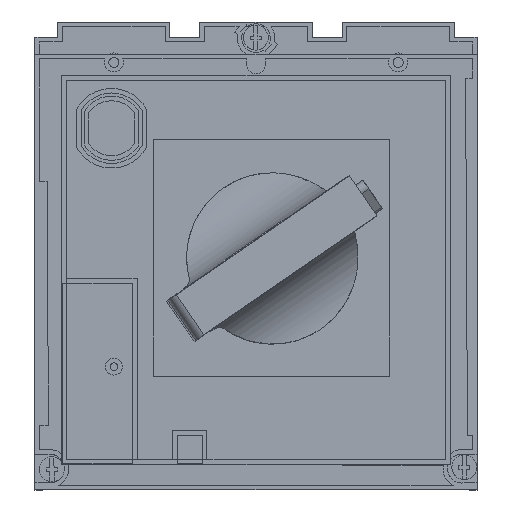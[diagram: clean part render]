
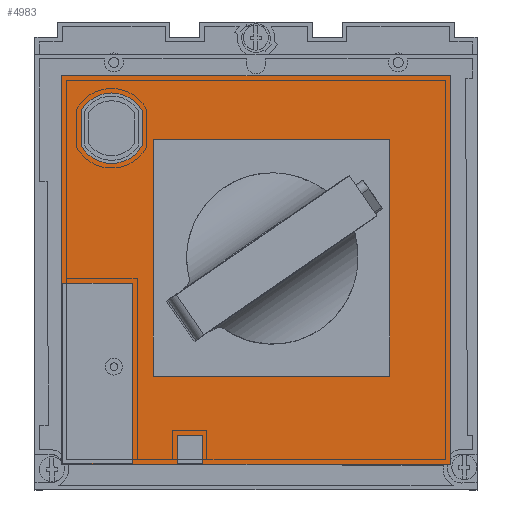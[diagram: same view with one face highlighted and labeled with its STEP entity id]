
A CAD part, top view. The second image highlights one B-rep face of the part: STEP entity #4983.
In plain terms, the highlighted planar face has unit normal (0, 0, 1).
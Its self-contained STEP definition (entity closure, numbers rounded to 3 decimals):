
#315=DIRECTION('',(0.,1.,0.));
#316=VECTOR('',#315,123.);
#317=CARTESIAN_POINT('',(8.48,8.13,49.9));
#318=LINE('',#317,#316);
#319=DIRECTION('',(1.,0.,0.));
#320=VECTOR('',#319,123.);
#321=CARTESIAN_POINT('',(8.48,131.13,49.9));
#322=LINE('',#321,#320);
#323=DIRECTION('',(0.,-1.,0.));
#324=VECTOR('',#323,123.);
#325=CARTESIAN_POINT('',(131.48,131.13,49.9));
#326=LINE('',#325,#324);
#327=DIRECTION('',(-1.,0.,0.));
#328=VECTOR('',#327,123.);
#329=CARTESIAN_POINT('',(131.48,8.13,49.9));
#330=LINE('',#329,#328);
#331=CARTESIAN_POINT('',(24.28,114.53,49.9));
#332=DIRECTION('',(0.,0.,1.));
#333=DIRECTION('',(-0.866,-0.501,0.));
#334=AXIS2_PLACEMENT_3D('',#331,#332,#333);
#336=DIRECTION('',(0.,1.,0.));
#337=VECTOR('',#336,11.17);
#338=CARTESIAN_POINT('',(33.931,108.945,49.9));
#339=LINE('',#338,#337);
#340=CARTESIAN_POINT('',(24.28,114.53,49.9));
#341=DIRECTION('',(0.,0.,1.));
#342=DIRECTION('',(0.866,0.501,0.));
#343=AXIS2_PLACEMENT_3D('',#340,#341,#342);
#345=DIRECTION('',(0.,-1.,0.));
#346=VECTOR('',#345,11.17);
#347=CARTESIAN_POINT('',(14.63,120.115,49.9));
#348=LINE('',#347,#346);
#367=DIRECTION('',(-1.,0.,0.));
#368=VECTOR('',#367,22.1);
#369=CARTESIAN_POINT('',(30.88,65.53,49.9));
#370=LINE('',#369,#368);
#371=DIRECTION('',(0.,-1.,0.));
#372=VECTOR('',#371,57.1);
#373=CARTESIAN_POINT('',(8.78,65.53,49.9));
#374=LINE('',#373,#372);
#375=DIRECTION('',(1.,0.,0.));
#376=VECTOR('',#375,22.1);
#377=CARTESIAN_POINT('',(8.78,8.43,49.9));
#378=LINE('',#377,#376);
#379=DIRECTION('',(0.,1.,0.));
#380=VECTOR('',#379,57.1);
#381=CARTESIAN_POINT('',(30.88,8.43,49.9));
#382=LINE('',#381,#380);
#383=DIRECTION('',(0.,-1.,0.));
#384=VECTOR('',#383,8.98);
#385=CARTESIAN_POINT('',(45.05,17.41,49.9));
#386=LINE('',#385,#384);
#387=DIRECTION('',(1.,0.,0.));
#388=VECTOR('',#387,7.96);
#389=CARTESIAN_POINT('',(45.05,8.43,49.9));
#390=LINE('',#389,#388);
#391=DIRECTION('',(0.,1.,0.));
#392=VECTOR('',#391,8.98);
#393=CARTESIAN_POINT('',(53.01,8.43,49.9));
#394=LINE('',#393,#392);
#395=DIRECTION('',(-1.,0.,0.));
#396=VECTOR('',#395,7.96);
#397=CARTESIAN_POINT('',(53.01,17.41,49.9));
#398=LINE('',#397,#396);
#399=CARTESIAN_POINT('',(108.18,106.38,49.9));
#400=DIRECTION('',(0.,0.,1.));
#401=DIRECTION('',(0.,1.,0.));
#402=AXIS2_PLACEMENT_3D('',#399,#400,#401);
#404=CARTESIAN_POINT('',(108.18,106.38,49.9));
#405=DIRECTION('',(0.,0.,1.));
#406=DIRECTION('',(0.,-1.,0.));
#407=AXIS2_PLACEMENT_3D('',#404,#405,#406);
#409=DIRECTION('',(0.892,-0.453,0.));
#410=VECTOR('',#409,11.31);
#411=CARTESIAN_POINT('',(67.37,70.241,49.9));
#412=LINE('',#411,#410);
#413=DIRECTION('',(0.453,0.892,0.));
#414=VECTOR('',#413,11.31);
#415=CARTESIAN_POINT('',(77.454,65.12,49.9));
#416=LINE('',#415,#414);
#417=DIRECTION('',(-0.892,0.453,0.));
#418=VECTOR('',#417,11.31);
#419=CARTESIAN_POINT('',(82.575,75.204,49.9));
#420=LINE('',#419,#418);
#421=DIRECTION('',(-0.453,-0.892,0.));
#422=VECTOR('',#421,11.31);
#423=CARTESIAN_POINT('',(72.491,80.325,49.9));
#424=LINE('',#423,#422);
#3422=CARTESIAN_POINT('',(8.48,8.13,49.9));
#3423=CARTESIAN_POINT('',(8.48,131.13,49.9));
#3424=VERTEX_POINT('',#3422);
#3425=VERTEX_POINT('',#3423);
#3426=CARTESIAN_POINT('',(131.48,131.13,49.9));
#3427=VERTEX_POINT('',#3426);
#3428=CARTESIAN_POINT('',(131.48,8.13,49.9));
#3429=VERTEX_POINT('',#3428);
#3700=CARTESIAN_POINT('',(14.63,108.945,49.9));
#3701=CARTESIAN_POINT('',(33.931,108.945,49.9));
#3702=VERTEX_POINT('',#3700);
#3703=VERTEX_POINT('',#3701);
#3704=CARTESIAN_POINT('',(33.931,120.115,49.9));
#3705=VERTEX_POINT('',#3704);
#3706=CARTESIAN_POINT('',(14.63,120.115,49.9));
#3707=VERTEX_POINT('',#3706);
#3716=CARTESIAN_POINT('',(30.88,65.53,49.9));
#3717=CARTESIAN_POINT('',(8.78,65.53,49.9));
#3718=VERTEX_POINT('',#3716);
#3719=VERTEX_POINT('',#3717);
#3720=CARTESIAN_POINT('',(8.78,8.43,49.9));
#3721=VERTEX_POINT('',#3720);
#3722=CARTESIAN_POINT('',(30.88,8.43,49.9));
#3723=VERTEX_POINT('',#3722);
#3724=CARTESIAN_POINT('',(45.05,17.41,49.9));
#3725=CARTESIAN_POINT('',(45.05,8.43,49.9));
#3726=VERTEX_POINT('',#3724);
#3727=VERTEX_POINT('',#3725);
#3728=CARTESIAN_POINT('',(53.01,8.43,49.9));
#3729=VERTEX_POINT('',#3728);
#3730=CARTESIAN_POINT('',(53.01,17.41,49.9));
#3731=VERTEX_POINT('',#3730);
#3740=CARTESIAN_POINT('',(108.18,107.68,49.9));
#3741=CARTESIAN_POINT('',(108.18,105.08,49.9));
#3742=VERTEX_POINT('',#3740);
#3743=VERTEX_POINT('',#3741);
#3960=CARTESIAN_POINT('',(67.37,70.241,49.9));
#3961=CARTESIAN_POINT('',(77.454,65.12,49.9));
#3962=VERTEX_POINT('',#3960);
#3963=VERTEX_POINT('',#3961);
#3964=CARTESIAN_POINT('',(82.575,75.204,49.9));
#3965=VERTEX_POINT('',#3964);
#3966=CARTESIAN_POINT('',(72.491,80.325,49.9));
#3967=VERTEX_POINT('',#3966);
#4926=CARTESIAN_POINT('',(0.,0.,49.9));
#4927=DIRECTION('',(0.,0.,1.));
#4928=DIRECTION('',(1.,0.,0.));
#4929=AXIS2_PLACEMENT_3D('',#4926,#4927,#4928);
#4930=PLANE('',#4929);
#4932=ORIENTED_EDGE('',*,*,#4931,.T.);
#4934=ORIENTED_EDGE('',*,*,#4933,.T.);
#4936=ORIENTED_EDGE('',*,*,#4935,.T.);
#4938=ORIENTED_EDGE('',*,*,#4937,.T.);
#4939=EDGE_LOOP('',(#4932,#4934,#4936,#4938));
#4940=FACE_OUTER_BOUND('',#4939,.F.);
#4942=ORIENTED_EDGE('',*,*,#4941,.T.);
#4944=ORIENTED_EDGE('',*,*,#4943,.T.);
#4946=ORIENTED_EDGE('',*,*,#4945,.T.);
#4948=ORIENTED_EDGE('',*,*,#4947,.T.);
#4949=EDGE_LOOP('',(#4942,#4944,#4946,#4948));
#4950=FACE_BOUND('',#4949,.F.);
#4952=ORIENTED_EDGE('',*,*,#4951,.T.);
#4954=ORIENTED_EDGE('',*,*,#4953,.T.);
#4956=ORIENTED_EDGE('',*,*,#4955,.T.);
#4958=ORIENTED_EDGE('',*,*,#4957,.T.);
#4959=EDGE_LOOP('',(#4952,#4954,#4956,#4958));
#4960=FACE_BOUND('',#4959,.F.);
#4962=ORIENTED_EDGE('',*,*,#4961,.T.);
#4964=ORIENTED_EDGE('',*,*,#4963,.T.);
#4966=ORIENTED_EDGE('',*,*,#4965,.T.);
#4968=ORIENTED_EDGE('',*,*,#4967,.T.);
#4969=EDGE_LOOP('',(#4962,#4964,#4966,#4968));
#4970=FACE_BOUND('',#4969,.F.);
#4972=ORIENTED_EDGE('',*,*,#4971,.T.);
#4974=ORIENTED_EDGE('',*,*,#4973,.T.);
#4975=EDGE_LOOP('',(#4972,#4974));
#4976=FACE_BOUND('',#4975,.F.);
#4977=ORIENTED_EDGE('',*,*,#4597,.T.);
#4978=ORIENTED_EDGE('',*,*,#4770,.T.);
#4979=ORIENTED_EDGE('',*,*,#4826,.T.);
#4980=ORIENTED_EDGE('',*,*,#4881,.T.);
#4981=EDGE_LOOP('',(#4977,#4978,#4979,#4980));
#4982=FACE_BOUND('',#4981,.F.);
#4983=ADVANCED_FACE('',(#4940,#4950,#4960,#4970,#4976,#4982),#4930,.T.);
#335=CIRCLE('',#334,11.15);
#344=CIRCLE('',#343,11.15);
#403=CIRCLE('',#402,1.3);
#408=CIRCLE('',#407,1.3);
#4597=EDGE_CURVE('',#3962,#3963,#412,.T.);
#4770=EDGE_CURVE('',#3963,#3965,#416,.T.);
#4826=EDGE_CURVE('',#3965,#3967,#420,.T.);
#4881=EDGE_CURVE('',#3967,#3962,#424,.T.);
#4931=EDGE_CURVE('',#3424,#3425,#318,.T.);
#4933=EDGE_CURVE('',#3425,#3427,#322,.T.);
#4935=EDGE_CURVE('',#3427,#3429,#326,.T.);
#4937=EDGE_CURVE('',#3429,#3424,#330,.T.);
#4941=EDGE_CURVE('',#3702,#3703,#335,.T.);
#4943=EDGE_CURVE('',#3703,#3705,#339,.T.);
#4945=EDGE_CURVE('',#3705,#3707,#344,.T.);
#4947=EDGE_CURVE('',#3707,#3702,#348,.T.);
#4951=EDGE_CURVE('',#3718,#3719,#370,.T.);
#4953=EDGE_CURVE('',#3719,#3721,#374,.T.);
#4955=EDGE_CURVE('',#3721,#3723,#378,.T.);
#4957=EDGE_CURVE('',#3723,#3718,#382,.T.);
#4961=EDGE_CURVE('',#3726,#3727,#386,.T.);
#4963=EDGE_CURVE('',#3727,#3729,#390,.T.);
#4965=EDGE_CURVE('',#3729,#3731,#394,.T.);
#4967=EDGE_CURVE('',#3731,#3726,#398,.T.);
#4971=EDGE_CURVE('',#3742,#3743,#403,.T.);
#4973=EDGE_CURVE('',#3743,#3742,#408,.T.);
